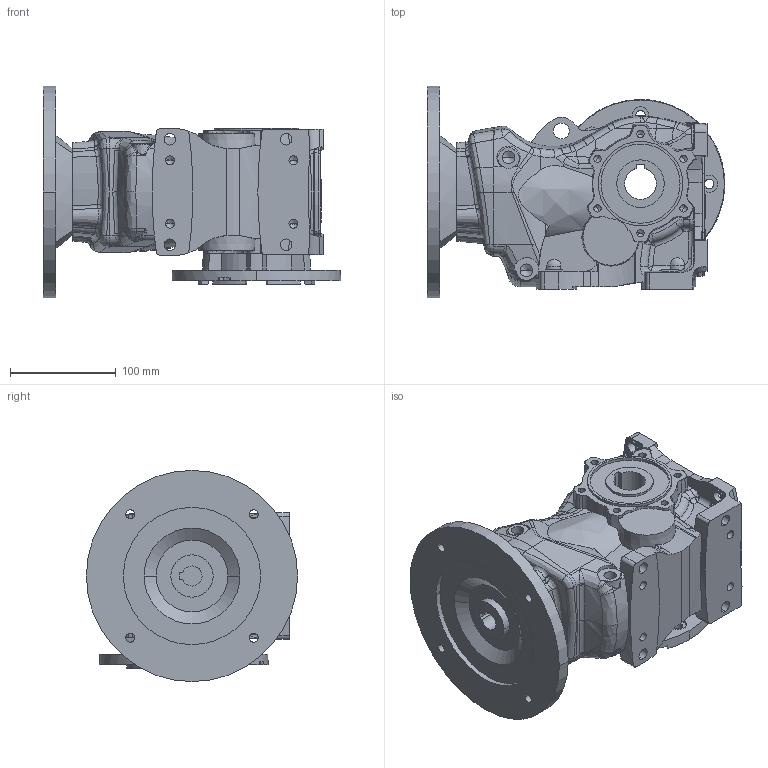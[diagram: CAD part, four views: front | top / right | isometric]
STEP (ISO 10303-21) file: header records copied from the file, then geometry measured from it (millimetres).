
FILE_DESCRIPTION((''),'2;1');
FILE_NAME('ENDURO3_ASM','2015-06-07T',('Luca'),(''),'PRO/ENGINEER BY PARAMETRIC TECHNOLOGY CORPORATION, 2008230','PRO/ENGINEER BY PARAMETRIC TECHNOLOGY CORPORATION, 2008230','');
FILE_SCHEMA(('CONFIG_CONTROL_DESIGN'));
Length unit declared in the file: millimetre
Products named in the file (4): HOUEN3; OFL160EN3_2; IFL80EN3; ENDURO3_ASM
Assembly tree (3 placements, depth 2):
  ENDURO3_ASM
    HOUEN3
    OFL160EN3_2
    IFL80EN3
Bounding box: 281.82 x 200 x 200 mm (x, y, z)
Volume: 3483633.2 mm3; surface area: 358477 mm2
Topology: 3 solids, 5 shells, 1441 faces, 4008 edges, 2608 vertices
Faces by surface type: cylinder 491, plane 400, bspline 261, cone 187, torus 53, extrusion 45, sphere 4
Entity records: 56839 total; most frequent: CARTESIAN_POINT 23016, ORIENTED_EDGE 7940, DIRECTION 5827, EDGE_CURVE 3970, VERTEX_POINT 2608, AXIS2_PLACEMENT_3D 2266, B_SPLINE_CURVE_WITH_KNOTS 1641, EDGE_LOOP 1572
